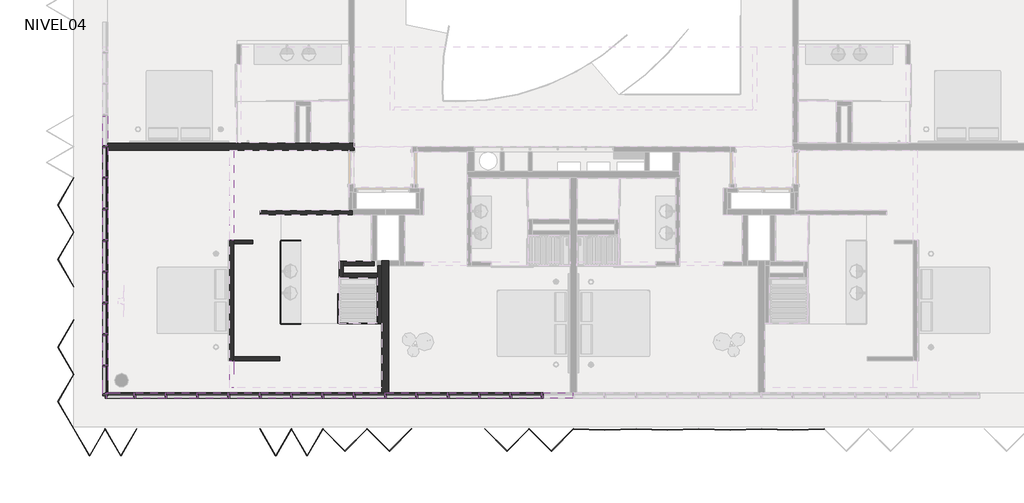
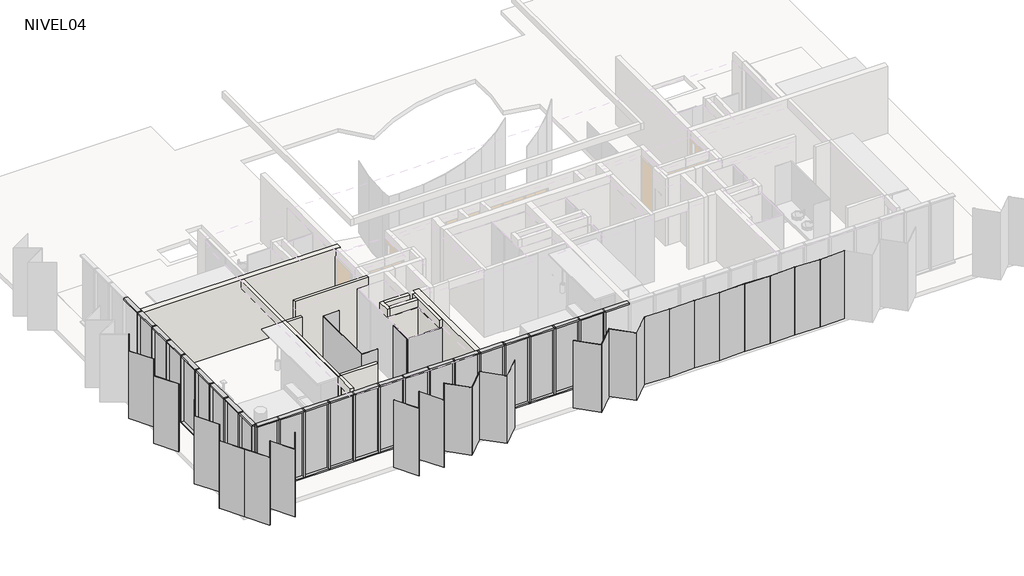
# One storey, part 1 of 8: 70 members, 31 plates, 15 walls.
"""IFC4 building model written with IfcOpenShell, lengths in millimetres."""

from ifc_helpers import new_model, si_unit, frame, origin, place, context, project, spatial, polyline, outline, extrude, faceted_brep, transform, mapped, element, save
from components import rectangular_mullion_50_x_150mm_324a6438, rectangular_mullion_50_x_150mm_d09437e2, rectangular_mullion_50_x_150mm_5dc04e1f, rectangular_mullion_50_x_150mm_33c2bde1, rectangular_mullion_50_x_150mm_da4cfd0d, folding_hd_abf8ebb9, folding_hd_folding_hd_45_d1567fec, folding_hd_folding_hd_60_f2b0c3be, plate_e70df11b, panel_corredera_cr_panel_corredera_0e7ff004, system_panel_cr_shower_eca2249b, system_panel_cr_shower_cd40b9b4, system_panel_cr_shower_8ff19449, system_panel_cr_shower_4114597a, system_panel_glazed_8b1c2311, system_panel_glazed_b40d16d2, system_panel_glazed_24c908d7, system_panel_glazed_6ccc6dc1

model = new_model("IFC4")

# Units and contexts
model_context = context("Model", 3, world=origin())
ifc_project = project(units=[si_unit("LENGTHUNIT", "METRE", prefix="MILLI")], contexts=[model_context])

# Site, building, storey
site = spatial("IfcSite", under=ifc_project)
building = spatial("IfcBuilding", under=site)
storey = spatial("IfcBuildingStorey", under=building, Name="NIVEL04", Elevation=7940.0)

# Members
placement = place(None, origin())
rectangular_mullion_50_x_150mm_shape = rectangular_mullion_50_x_150mm_324a6438(model_context)
element("IfcMember", 1, ObjectType="Rectangular Mullion : 50 x 150mm", at=placement, inside=storey, context=model_context, shape_type="MappedRepresentation", body=[
    mapped(rectangular_mullion_50_x_150mm_shape, transform((-20633.5934748, -241.0860763, 10490.0), x_axis=(0.0, 0.0, 1.0), y_axis=(-1.0, 0.0, 0.0), z_axis=(0.0, -1.0, 0.0))),
])
element("IfcMember", 2, ObjectType="Rectangular Mullion : 50 x 150mm", at=placement, inside=storey, context=model_context, shape_type="MappedRepresentation", body=[
    mapped(rectangular_mullion_50_x_150mm_shape, transform((-20633.5934748, -1141.0860763, 10490.0), x_axis=(0.0, 0.0, 1.0), y_axis=(-1.0, 0.0, 0.0), z_axis=(0.0, -1.0, 0.0))),
])
element("IfcMember", 3, ObjectType="Rectangular Mullion : 50 x 150mm", at=placement, inside=storey, context=model_context, shape_type="MappedRepresentation", body=[
    mapped(rectangular_mullion_50_x_150mm_shape, transform((-20633.5934748, -2041.0860763, 10490.0), x_axis=(0.0, 0.0, 1.0), y_axis=(-1.0, 0.0, 0.0), z_axis=(0.0, -1.0, 0.0))),
])
element("IfcMember", 4, ObjectType="Rectangular Mullion : 50 x 150mm", at=placement, inside=storey, context=model_context, shape_type="MappedRepresentation", body=[
    mapped(rectangular_mullion_50_x_150mm_shape, transform((-20633.5934748, -2941.0860763, 10490.0), x_axis=(0.0, 0.0, 1.0), y_axis=(-1.0, 0.0, 0.0), z_axis=(0.0, -1.0, 0.0))),
])
element("IfcMember", 5, ObjectType="Rectangular Mullion : 50 x 150mm", at=placement, inside=storey, context=model_context, shape_type="MappedRepresentation", body=[
    mapped(rectangular_mullion_50_x_150mm_shape, transform((-20633.5934748, -3841.0860763, 10490.0), x_axis=(0.0, 0.0, 1.0), y_axis=(-1.0, 0.0, 0.0), z_axis=(0.0, -1.0, 0.0))),
])
element("IfcMember", 6, ObjectType="Rectangular Mullion : 50 x 150mm", at=placement, inside=storey, context=model_context, shape_type="MappedRepresentation", body=[
    mapped(rectangular_mullion_50_x_150mm_shape, transform((-20633.5934748, -4741.0860763, 10490.0), x_axis=(0.0, 0.0, 1.0), y_axis=(-1.0, 0.0, 0.0), z_axis=(0.0, -1.0, 0.0))),
])
element("IfcMember", 7, ObjectType="Rectangular Mullion : 50 x 150mm", at=placement, inside=storey, context=model_context, shape_type="MappedRepresentation", body=[
    mapped(rectangular_mullion_50_x_150mm_shape, transform((-20633.5934748, -5641.0860763, 10490.0), x_axis=(0.0, 0.0, 1.0), y_axis=(-1.0, 0.0, 0.0), z_axis=(0.0, -1.0, 0.0))),
])
element("IfcMember", 8, ObjectType="Rectangular Mullion : 50 x 150mm", at=placement, inside=storey, context=model_context, shape_type="MappedRepresentation", body=[
    mapped(rectangular_mullion_50_x_150mm_shape, transform((-20633.5934748, -6541.0860763, 10490.0), x_axis=(0.0, 0.0, 1.0), y_axis=(-1.0, 0.0, 0.0), z_axis=(0.0, -1.0, 0.0))),
])
element("IfcMember", 9, ObjectType="Rectangular Mullion : 50 x 150mm", at=placement, inside=storey, context=model_context, shape_type="MappedRepresentation", body=[
    mapped(rectangular_mullion_50_x_150mm_shape, transform((-20633.5934748, -291.0860763, 7920.0), x_axis=(0.0, 0.0, -1.0), y_axis=(-1.0, 0.0, 0.0), z_axis=(0.0, 1.0, 0.0))),
])
element("IfcMember", 10, ObjectType="Rectangular Mullion : 50 x 150mm", at=placement, inside=storey, context=model_context, shape_type="MappedRepresentation", body=[
    mapped(rectangular_mullion_50_x_150mm_shape, transform((-20633.5934748, -1191.0860763, 7920.0), x_axis=(0.0, 0.0, -1.0), y_axis=(-1.0, 0.0, 0.0), z_axis=(0.0, 1.0, 0.0))),
])
element("IfcMember", 11, ObjectType="Rectangular Mullion : 50 x 150mm", at=placement, inside=storey, context=model_context, shape_type="MappedRepresentation", body=[
    mapped(rectangular_mullion_50_x_150mm_shape, transform((-20633.5934748, -2091.0860763, 7920.0), x_axis=(0.0, 0.0, -1.0), y_axis=(-1.0, 0.0, 0.0), z_axis=(0.0, 1.0, 0.0))),
])
element("IfcMember", 12, ObjectType="Rectangular Mullion : 50 x 150mm", at=placement, inside=storey, context=model_context, shape_type="MappedRepresentation", body=[
    mapped(rectangular_mullion_50_x_150mm_shape, transform((-20633.5934748, -2991.0860763, 7920.0), x_axis=(0.0, 0.0, -1.0), y_axis=(-1.0, 0.0, 0.0), z_axis=(0.0, 1.0, 0.0))),
])
element("IfcMember", 13, ObjectType="Rectangular Mullion : 50 x 150mm", at=placement, inside=storey, context=model_context, shape_type="MappedRepresentation", body=[
    mapped(rectangular_mullion_50_x_150mm_shape, transform((-20633.5934748, -3891.0860763, 7920.0), x_axis=(0.0, 0.0, -1.0), y_axis=(-1.0, 0.0, 0.0), z_axis=(0.0, 1.0, 0.0))),
])
element("IfcMember", 14, ObjectType="Rectangular Mullion : 50 x 150mm", at=placement, inside=storey, context=model_context, shape_type="MappedRepresentation", body=[
    mapped(rectangular_mullion_50_x_150mm_shape, transform((-20633.5934748, -4791.0860763, 7920.0), x_axis=(0.0, 0.0, -1.0), y_axis=(-1.0, 0.0, 0.0), z_axis=(0.0, 1.0, 0.0))),
])
element("IfcMember", 15, ObjectType="Rectangular Mullion : 50 x 150mm", at=placement, inside=storey, context=model_context, shape_type="MappedRepresentation", body=[
    mapped(rectangular_mullion_50_x_150mm_shape, transform((-20633.5934748, -5691.0860763, 7920.0), x_axis=(0.0, 0.0, -1.0), y_axis=(-1.0, 0.0, 0.0), z_axis=(0.0, 1.0, 0.0))),
])
element("IfcMember", 16, ObjectType="Rectangular Mullion : 50 x 150mm", at=placement, inside=storey, context=model_context, shape_type="MappedRepresentation", body=[
    mapped(rectangular_mullion_50_x_150mm_shape, transform((-8058.5934748, -7416.0860759, 10490.0), x_axis=(0.0, 0.0, 1.0), y_axis=(0.0, 1.0, 0.0), z_axis=(-1.0, 0.0, 0.0))),
])
element("IfcMember", 17, ObjectType="Rectangular Mullion : 50 x 150mm", at=placement, inside=storey, context=model_context, shape_type="MappedRepresentation", body=[
    mapped(rectangular_mullion_50_x_150mm_shape, transform((-8958.5934748, -7416.0860759, 10490.0), x_axis=(0.0, 0.0, 1.0), y_axis=(0.0, 1.0, 0.0), z_axis=(-1.0, 0.0, 0.0))),
])
element("IfcMember", 18, ObjectType="Rectangular Mullion : 50 x 150mm", at=placement, inside=storey, context=model_context, shape_type="MappedRepresentation", body=[
    mapped(rectangular_mullion_50_x_150mm_shape, transform((-9858.5934748, -7416.0860759, 10490.0), x_axis=(0.0, 0.0, 1.0), y_axis=(0.0, 1.0, 0.0), z_axis=(-1.0, 0.0, 0.0))),
])
element("IfcMember", 19, ObjectType="Rectangular Mullion : 50 x 150mm", at=placement, inside=storey, context=model_context, shape_type="MappedRepresentation", body=[
    mapped(rectangular_mullion_50_x_150mm_shape, transform((-10758.5934748, -7416.0860759, 10490.0), x_axis=(0.0, 0.0, 1.0), y_axis=(0.0, 1.0, 0.0), z_axis=(-1.0, 0.0, 0.0))),
])
element("IfcMember", 20, ObjectType="Rectangular Mullion : 50 x 150mm", at=placement, inside=storey, context=model_context, shape_type="MappedRepresentation", body=[
    mapped(rectangular_mullion_50_x_150mm_shape, transform((-11658.5934748, -7416.0860759, 10490.0), x_axis=(0.0, 0.0, 1.0), y_axis=(0.0, 1.0, 0.0), z_axis=(-1.0, 0.0, 0.0))),
])
element("IfcMember", 21, ObjectType="Rectangular Mullion : 50 x 150mm", at=placement, inside=storey, context=model_context, shape_type="MappedRepresentation", body=[
    mapped(rectangular_mullion_50_x_150mm_shape, transform((-12558.5934748, -7416.0860759, 10490.0), x_axis=(0.0, 0.0, 1.0), y_axis=(0.0, 1.0, 0.0), z_axis=(-1.0, 0.0, 0.0))),
])
element("IfcMember", 22, ObjectType="Rectangular Mullion : 50 x 150mm", at=placement, inside=storey, context=model_context, shape_type="MappedRepresentation", body=[
    mapped(rectangular_mullion_50_x_150mm_shape, transform((-13458.5934748, -7416.0860759, 10490.0), x_axis=(0.0, 0.0, 1.0), y_axis=(0.0, 1.0, 0.0), z_axis=(-1.0, 0.0, 0.0))),
])
element("IfcMember", 23, ObjectType="Rectangular Mullion : 50 x 150mm", at=placement, inside=storey, context=model_context, shape_type="MappedRepresentation", body=[
    mapped(rectangular_mullion_50_x_150mm_shape, transform((-14358.5934748, -7416.0860759, 10490.0), x_axis=(0.0, 0.0, 1.0), y_axis=(0.0, 1.0, 0.0), z_axis=(-1.0, 0.0, 0.0))),
])
element("IfcMember", 24, ObjectType="Rectangular Mullion : 50 x 150mm", at=placement, inside=storey, context=model_context, shape_type="MappedRepresentation", body=[
    mapped(rectangular_mullion_50_x_150mm_shape, transform((-15258.5934748, -7416.0860759, 10490.0), x_axis=(0.0, 0.0, 1.0), y_axis=(0.0, 1.0, 0.0), z_axis=(-1.0, 0.0, 0.0))),
])
element("IfcMember", 25, ObjectType="Rectangular Mullion : 50 x 150mm", at=placement, inside=storey, context=model_context, shape_type="MappedRepresentation", body=[
    mapped(rectangular_mullion_50_x_150mm_shape, transform((-16158.5934748, -7416.0860759, 10490.0), x_axis=(0.0, 0.0, 1.0), y_axis=(0.0, 1.0, 0.0), z_axis=(-1.0, 0.0, 0.0))),
])
element("IfcMember", 26, ObjectType="Rectangular Mullion : 50 x 150mm", at=placement, inside=storey, context=model_context, shape_type="MappedRepresentation", body=[
    mapped(rectangular_mullion_50_x_150mm_shape, transform((-17058.5934748, -7416.0860759, 10490.0), x_axis=(0.0, 0.0, 1.0), y_axis=(0.0, 1.0, 0.0), z_axis=(-1.0, 0.0, 0.0))),
])
element("IfcMember", 27, ObjectType="Rectangular Mullion : 50 x 150mm", at=placement, inside=storey, context=model_context, shape_type="MappedRepresentation", body=[
    mapped(rectangular_mullion_50_x_150mm_shape, transform((-17958.5934748, -7416.0860759, 10490.0), x_axis=(0.0, 0.0, 1.0), y_axis=(0.0, 1.0, 0.0), z_axis=(-1.0, 0.0, 0.0))),
])
element("IfcMember", 28, ObjectType="Rectangular Mullion : 50 x 150mm", at=placement, inside=storey, context=model_context, shape_type="MappedRepresentation", body=[
    mapped(rectangular_mullion_50_x_150mm_shape, transform((-18858.5934748, -7416.0860759, 10490.0), x_axis=(0.0, 0.0, 1.0), y_axis=(0.0, 1.0, 0.0), z_axis=(-1.0, 0.0, 0.0))),
])
element("IfcMember", 29, ObjectType="Rectangular Mullion : 50 x 150mm", at=placement, inside=storey, context=model_context, shape_type="MappedRepresentation", body=[
    mapped(rectangular_mullion_50_x_150mm_shape, transform((-19758.5934748, -7416.0860759, 10490.0), x_axis=(0.0, 0.0, 1.0), y_axis=(0.0, 1.0, 0.0), z_axis=(-1.0, 0.0, 0.0))),
])
element("IfcMember", 30, ObjectType="Rectangular Mullion : 50 x 150mm", at=placement, inside=storey, context=model_context, shape_type="MappedRepresentation", body=[
    mapped(rectangular_mullion_50_x_150mm_shape, transform((-8108.5934748, -7416.0860759, 7920.0), x_axis=(0.0, 0.0, -1.0), y_axis=(0.0, 1.0, 0.0), z_axis=(1.0, 0.0, 0.0))),
])
element("IfcMember", 31, ObjectType="Rectangular Mullion : 50 x 150mm", at=placement, inside=storey, context=model_context, shape_type="MappedRepresentation", body=[
    mapped(rectangular_mullion_50_x_150mm_shape, transform((-9008.5934748, -7416.0860759, 7920.0), x_axis=(0.0, 0.0, -1.0), y_axis=(0.0, 1.0, 0.0), z_axis=(1.0, 0.0, 0.0))),
])
element("IfcMember", 32, ObjectType="Rectangular Mullion : 50 x 150mm", at=placement, inside=storey, context=model_context, shape_type="MappedRepresentation", body=[
    mapped(rectangular_mullion_50_x_150mm_shape, transform((-9908.5934748, -7416.0860759, 7920.0), x_axis=(0.0, 0.0, -1.0), y_axis=(0.0, 1.0, 0.0), z_axis=(1.0, 0.0, 0.0))),
])
element("IfcMember", 33, ObjectType="Rectangular Mullion : 50 x 150mm", at=placement, inside=storey, context=model_context, shape_type="MappedRepresentation", body=[
    mapped(rectangular_mullion_50_x_150mm_shape, transform((-10808.5934748, -7416.0860759, 7920.0), x_axis=(0.0, 0.0, -1.0), y_axis=(0.0, 1.0, 0.0), z_axis=(1.0, 0.0, 0.0))),
])
element("IfcMember", 34, ObjectType="Rectangular Mullion : 50 x 150mm", at=placement, inside=storey, context=model_context, shape_type="MappedRepresentation", body=[
    mapped(rectangular_mullion_50_x_150mm_shape, transform((-11708.5934748, -7416.0860759, 7920.0), x_axis=(0.0, 0.0, -1.0), y_axis=(0.0, 1.0, 0.0), z_axis=(1.0, 0.0, 0.0))),
])
element("IfcMember", 35, ObjectType="Rectangular Mullion : 50 x 150mm", at=placement, inside=storey, context=model_context, shape_type="MappedRepresentation", body=[
    mapped(rectangular_mullion_50_x_150mm_shape, transform((-12608.5934748, -7416.0860759, 7920.0), x_axis=(0.0, 0.0, -1.0), y_axis=(0.0, 1.0, 0.0), z_axis=(1.0, 0.0, 0.0))),
])
element("IfcMember", 36, ObjectType="Rectangular Mullion : 50 x 150mm", at=placement, inside=storey, context=model_context, shape_type="MappedRepresentation", body=[
    mapped(rectangular_mullion_50_x_150mm_shape, transform((-13508.5934748, -7416.0860759, 7920.0), x_axis=(0.0, 0.0, -1.0), y_axis=(0.0, 1.0, 0.0), z_axis=(1.0, 0.0, 0.0))),
])
element("IfcMember", 37, ObjectType="Rectangular Mullion : 50 x 150mm", at=placement, inside=storey, context=model_context, shape_type="MappedRepresentation", body=[
    mapped(rectangular_mullion_50_x_150mm_shape, transform((-14408.5934748, -7416.0860759, 7920.0), x_axis=(0.0, 0.0, -1.0), y_axis=(0.0, 1.0, 0.0), z_axis=(1.0, 0.0, 0.0))),
])
element("IfcMember", 38, ObjectType="Rectangular Mullion : 50 x 150mm", at=placement, inside=storey, context=model_context, shape_type="MappedRepresentation", body=[
    mapped(rectangular_mullion_50_x_150mm_shape, transform((-15308.5934748, -7416.0860759, 7920.0), x_axis=(0.0, 0.0, -1.0), y_axis=(0.0, 1.0, 0.0), z_axis=(1.0, 0.0, 0.0))),
])
element("IfcMember", 39, ObjectType="Rectangular Mullion : 50 x 150mm", at=placement, inside=storey, context=model_context, shape_type="MappedRepresentation", body=[
    mapped(rectangular_mullion_50_x_150mm_shape, transform((-16208.5934748, -7416.0860759, 7920.0), x_axis=(0.0, 0.0, -1.0), y_axis=(0.0, 1.0, 0.0), z_axis=(1.0, 0.0, 0.0))),
])
element("IfcMember", 40, ObjectType="Rectangular Mullion : 50 x 150mm", at=placement, inside=storey, context=model_context, shape_type="MappedRepresentation", body=[
    mapped(rectangular_mullion_50_x_150mm_shape, transform((-17108.5934748, -7416.0860759, 7920.0), x_axis=(0.0, 0.0, -1.0), y_axis=(0.0, 1.0, 0.0), z_axis=(1.0, 0.0, 0.0))),
])
element("IfcMember", 41, ObjectType="Rectangular Mullion : 50 x 150mm", at=placement, inside=storey, context=model_context, shape_type="MappedRepresentation", body=[
    mapped(rectangular_mullion_50_x_150mm_shape, transform((-18008.5934748, -7416.0860759, 7920.0), x_axis=(0.0, 0.0, -1.0), y_axis=(0.0, 1.0, 0.0), z_axis=(1.0, 0.0, 0.0))),
])
element("IfcMember", 42, ObjectType="Rectangular Mullion : 50 x 150mm", at=placement, inside=storey, context=model_context, shape_type="MappedRepresentation", body=[
    mapped(rectangular_mullion_50_x_150mm_shape, transform((-18908.5934748, -7416.0860759, 7920.0), x_axis=(0.0, 0.0, -1.0), y_axis=(0.0, 1.0, 0.0), z_axis=(1.0, 0.0, 0.0))),
])
rectangular_mullion_50_x_150mm_2_shape = rectangular_mullion_50_x_150mm_d09437e2(model_context)
element("IfcMember", 43, ObjectType="Rectangular Mullion : 50 x 150mm", at=placement, inside=storey, context=model_context, shape_type="MappedRepresentation", body=[
    mapped(rectangular_mullion_50_x_150mm_2_shape, transform((-20633.5934748, -7366.0860759, 10490.0), x_axis=(0.0, 0.0, 1.0), y_axis=(-1.0, 0.0, 0.0), z_axis=(0.0, -1.0, 0.0))),
])
element("IfcMember", 44, ObjectType="Rectangular Mullion : 50 x 150mm", at=placement, inside=storey, context=model_context, shape_type="MappedRepresentation", body=[
    mapped(rectangular_mullion_50_x_150mm_2_shape, transform((-20633.5934748, -6591.0860763, 7920.0), x_axis=(0.0, 0.0, -1.0), y_axis=(-1.0, 0.0, 0.0), z_axis=(0.0, 1.0, 0.0))),
])
rectangular_mullion_50_x_150mm_3_shape = rectangular_mullion_50_x_150mm_5dc04e1f(model_context)
element("IfcMember", 45, ObjectType="Rectangular Mullion : 50 x 150mm", at=placement, inside=storey, context=model_context, shape_type="MappedRepresentation", body=[
    mapped(rectangular_mullion_50_x_150mm_3_shape, transform((-20583.5934748, -7416.0860759, 10490.0), x_axis=(0.0, 0.0, 1.0), y_axis=(0.0, 1.0, 0.0), z_axis=(-1.0, 0.0, 0.0))),
])
element("IfcMember", 46, ObjectType="Rectangular Mullion : 50 x 150mm", at=placement, inside=storey, context=model_context, shape_type="MappedRepresentation", body=[
    mapped(rectangular_mullion_50_x_150mm_3_shape, transform((-19808.5934748, -7416.0860759, 7920.0), x_axis=(0.0, 0.0, -1.0), y_axis=(0.0, 1.0, 0.0), z_axis=(1.0, 0.0, 0.0))),
])
rectangular_mullion_50_x_150mm_4_shape = rectangular_mullion_50_x_150mm_33c2bde1(model_context)
element("IfcMember", 47, ObjectType="Rectangular Mullion : 50 x 150mm", at=placement, inside=storey, context=model_context, shape_type="MappedRepresentation", body=[
    mapped(rectangular_mullion_50_x_150mm_4_shape, transform((-20633.5934748, -266.0860763, 7920.0), x_axis=(0.0, -1.0, 0.0), y_axis=(-1.0, 0.0, 0.0), z_axis=(0.0, 0.0, -1.0))),
])
element("IfcMember", 48, ObjectType="Rectangular Mullion : 50 x 150mm", at=placement, inside=storey, context=model_context, shape_type="MappedRepresentation", body=[
    mapped(rectangular_mullion_50_x_150mm_4_shape, transform((-20633.5934748, -1166.0860763, 7920.0), x_axis=(0.0, -1.0, 0.0), y_axis=(-1.0, 0.0, 0.0), z_axis=(0.0, 0.0, -1.0))),
])
element("IfcMember", 49, ObjectType="Rectangular Mullion : 50 x 150mm", at=placement, inside=storey, context=model_context, shape_type="MappedRepresentation", body=[
    mapped(rectangular_mullion_50_x_150mm_4_shape, transform((-20633.5934748, -2066.0860763, 7920.0), x_axis=(0.0, -1.0, 0.0), y_axis=(-1.0, 0.0, 0.0), z_axis=(0.0, 0.0, -1.0))),
])
element("IfcMember", 50, ObjectType="Rectangular Mullion : 50 x 150mm", at=placement, inside=storey, context=model_context, shape_type="MappedRepresentation", body=[
    mapped(rectangular_mullion_50_x_150mm_4_shape, transform((-20633.5934748, -2966.0860763, 7920.0), x_axis=(0.0, -1.0, 0.0), y_axis=(-1.0, 0.0, 0.0), z_axis=(0.0, 0.0, -1.0))),
])
element("IfcMember", 51, ObjectType="Rectangular Mullion : 50 x 150mm", at=placement, inside=storey, context=model_context, shape_type="MappedRepresentation", body=[
    mapped(rectangular_mullion_50_x_150mm_4_shape, transform((-20633.5934748, -3866.0860763, 7920.0), x_axis=(0.0, -1.0, 0.0), y_axis=(-1.0, 0.0, 0.0), z_axis=(0.0, 0.0, -1.0))),
])
element("IfcMember", 52, ObjectType="Rectangular Mullion : 50 x 150mm", at=placement, inside=storey, context=model_context, shape_type="MappedRepresentation", body=[
    mapped(rectangular_mullion_50_x_150mm_4_shape, transform((-20633.5934748, -4766.0860763, 7920.0), x_axis=(0.0, -1.0, 0.0), y_axis=(-1.0, 0.0, 0.0), z_axis=(0.0, 0.0, -1.0))),
])
element("IfcMember", 53, ObjectType="Rectangular Mullion : 50 x 150mm", at=placement, inside=storey, context=model_context, shape_type="MappedRepresentation", body=[
    mapped(rectangular_mullion_50_x_150mm_4_shape, transform((-20633.5934748, -5666.0860763, 7920.0), x_axis=(0.0, -1.0, 0.0), y_axis=(-1.0, 0.0, 0.0), z_axis=(0.0, 0.0, -1.0))),
])
element("IfcMember", 54, ObjectType="Rectangular Mullion : 50 x 150mm", at=placement, inside=storey, context=model_context, shape_type="MappedRepresentation", body=[
    mapped(rectangular_mullion_50_x_150mm_4_shape, transform((-20633.5934748, -6566.0860763, 7920.0), x_axis=(0.0, -1.0, 0.0), y_axis=(-1.0, 0.0, 0.0), z_axis=(0.0, 0.0, -1.0))),
])
rectangular_mullion_50_x_150mm_5_shape = rectangular_mullion_50_x_150mm_da4cfd0d(model_context)
element("IfcMember", 55, ObjectType="Rectangular Mullion : 50 x 150mm", at=placement, inside=storey, context=model_context, shape_type="MappedRepresentation", body=[
    mapped(rectangular_mullion_50_x_150mm_5_shape, transform((-20633.5934748, -7416.0860759, 7920.0), x_axis=(0.0, -1.0, 0.0), y_axis=(-1.0, 0.0, 0.0), z_axis=(0.0, 0.0, -1.0))),
])
element("IfcMember", 56, ObjectType="Rectangular Mullion : 50 x 150mm", at=placement, inside=storey, context=model_context, shape_type="MappedRepresentation", body=[
    mapped(rectangular_mullion_50_x_150mm_4_shape, transform((-8083.5934748, -7416.0860759, 7920.0), x_axis=(-1.0, 0.0, 0.0), y_axis=(0.0, 1.0, 0.0), z_axis=(0.0, 0.0, -1.0))),
])
element("IfcMember", 57, ObjectType="Rectangular Mullion : 50 x 150mm", at=placement, inside=storey, context=model_context, shape_type="MappedRepresentation", body=[
    mapped(rectangular_mullion_50_x_150mm_4_shape, transform((-8983.5934748, -7416.0860759, 7920.0), x_axis=(-1.0, 0.0, 0.0), y_axis=(0.0, 1.0, 0.0), z_axis=(0.0, 0.0, -1.0))),
])
element("IfcMember", 58, ObjectType="Rectangular Mullion : 50 x 150mm", at=placement, inside=storey, context=model_context, shape_type="MappedRepresentation", body=[
    mapped(rectangular_mullion_50_x_150mm_4_shape, transform((-9883.5934748, -7416.0860759, 7920.0), x_axis=(-1.0, 0.0, 0.0), y_axis=(0.0, 1.0, 0.0), z_axis=(0.0, 0.0, -1.0))),
])
element("IfcMember", 59, ObjectType="Rectangular Mullion : 50 x 150mm", at=placement, inside=storey, context=model_context, shape_type="MappedRepresentation", body=[
    mapped(rectangular_mullion_50_x_150mm_4_shape, transform((-10783.5934748, -7416.0860759, 7920.0), x_axis=(-1.0, 0.0, 0.0), y_axis=(0.0, 1.0, 0.0), z_axis=(0.0, 0.0, -1.0))),
])
element("IfcMember", 60, ObjectType="Rectangular Mullion : 50 x 150mm", at=placement, inside=storey, context=model_context, shape_type="MappedRepresentation", body=[
    mapped(rectangular_mullion_50_x_150mm_4_shape, transform((-11683.5934748, -7416.0860759, 7920.0), x_axis=(-1.0, 0.0, 0.0), y_axis=(0.0, 1.0, 0.0), z_axis=(0.0, 0.0, -1.0))),
])
element("IfcMember", 61, ObjectType="Rectangular Mullion : 50 x 150mm", at=placement, inside=storey, context=model_context, shape_type="MappedRepresentation", body=[
    mapped(rectangular_mullion_50_x_150mm_4_shape, transform((-12583.5934748, -7416.0860759, 7920.0), x_axis=(-1.0, 0.0, 0.0), y_axis=(0.0, 1.0, 0.0), z_axis=(0.0, 0.0, -1.0))),
])
element("IfcMember", 62, ObjectType="Rectangular Mullion : 50 x 150mm", at=placement, inside=storey, context=model_context, shape_type="MappedRepresentation", body=[
    mapped(rectangular_mullion_50_x_150mm_4_shape, transform((-13483.5934748, -7416.0860759, 7920.0), x_axis=(-1.0, 0.0, 0.0), y_axis=(0.0, 1.0, 0.0), z_axis=(0.0, 0.0, -1.0))),
])
element("IfcMember", 63, ObjectType="Rectangular Mullion : 50 x 150mm", at=placement, inside=storey, context=model_context, shape_type="MappedRepresentation", body=[
    mapped(rectangular_mullion_50_x_150mm_4_shape, transform((-14383.5934748, -7416.0860759, 7920.0), x_axis=(-1.0, 0.0, 0.0), y_axis=(0.0, 1.0, 0.0), z_axis=(0.0, 0.0, -1.0))),
])
element("IfcMember", 64, ObjectType="Rectangular Mullion : 50 x 150mm", at=placement, inside=storey, context=model_context, shape_type="MappedRepresentation", body=[
    mapped(rectangular_mullion_50_x_150mm_4_shape, transform((-15283.5934748, -7416.0860759, 7920.0), x_axis=(-1.0, 0.0, 0.0), y_axis=(0.0, 1.0, 0.0), z_axis=(0.0, 0.0, -1.0))),
])
element("IfcMember", 65, ObjectType="Rectangular Mullion : 50 x 150mm", at=placement, inside=storey, context=model_context, shape_type="MappedRepresentation", body=[
    mapped(rectangular_mullion_50_x_150mm_4_shape, transform((-16183.5934748, -7416.0860759, 7920.0), x_axis=(-1.0, 0.0, 0.0), y_axis=(0.0, 1.0, 0.0), z_axis=(0.0, 0.0, -1.0))),
])
element("IfcMember", 66, ObjectType="Rectangular Mullion : 50 x 150mm", at=placement, inside=storey, context=model_context, shape_type="MappedRepresentation", body=[
    mapped(rectangular_mullion_50_x_150mm_4_shape, transform((-17083.5934748, -7416.0860759, 7920.0), x_axis=(-1.0, 0.0, 0.0), y_axis=(0.0, 1.0, 0.0), z_axis=(0.0, 0.0, -1.0))),
])
element("IfcMember", 67, ObjectType="Rectangular Mullion : 50 x 150mm", at=placement, inside=storey, context=model_context, shape_type="MappedRepresentation", body=[
    mapped(rectangular_mullion_50_x_150mm_4_shape, transform((-17983.5934748, -7416.0860759, 7920.0), x_axis=(-1.0, 0.0, 0.0), y_axis=(0.0, 1.0, 0.0), z_axis=(0.0, 0.0, -1.0))),
])
element("IfcMember", 68, ObjectType="Rectangular Mullion : 50 x 150mm", at=placement, inside=storey, context=model_context, shape_type="MappedRepresentation", body=[
    mapped(rectangular_mullion_50_x_150mm_4_shape, transform((-18883.5934748, -7416.0860759, 7920.0), x_axis=(-1.0, 0.0, 0.0), y_axis=(0.0, 1.0, 0.0), z_axis=(0.0, 0.0, -1.0))),
])
element("IfcMember", 69, ObjectType="Rectangular Mullion : 50 x 150mm", at=placement, inside=storey, context=model_context, shape_type="MappedRepresentation", body=[
    mapped(rectangular_mullion_50_x_150mm_4_shape, transform((-19783.5934748, -7416.0860759, 7920.0), x_axis=(-1.0, 0.0, 0.0), y_axis=(0.0, 1.0, 0.0), z_axis=(0.0, 0.0, -1.0))),
])
element("IfcMember", 70, ObjectType="Rectangular Mullion : 50 x 150mm", at=placement, inside=storey, context=model_context, shape_type="MappedRepresentation", body=[
    mapped(rectangular_mullion_50_x_150mm_5_shape, transform((-20633.5934748, -7416.0860759, 7920.0), x_axis=(-1.0, 0.0, 0.0), y_axis=(0.0, 1.0, 0.0), z_axis=(0.0, 0.0, -1.0))),
])

# Plates
folding_hd_shape = folding_hd_abf8ebb9(model_context)
element("IfcPlate", 71, ObjectType="FOLDING HD : FOLDING HD-90-2°", at=placement, inside=storey, context=model_context, shape_type="MappedRepresentation", body=[
    mapped(folding_hd_shape, transform((-3583.5934748, -8366.0860759, 7920.0), x_axis=(-1.0, 0.0, 0.0), y_axis=(0.0, -1.0, 0.0), z_axis=(0.0, 0.0, 1.0))),
])
folding_hd_folding_hd_45_shape = folding_hd_folding_hd_45_d1567fec(model_context)
element("IfcPlate", 72, ObjectType="FOLDING HD : FOLDING HD 45", at=placement, inside=storey, context=model_context, shape_type="MappedRepresentation", body=[
    mapped(folding_hd_folding_hd_45_shape, transform((-10783.5934748, -8366.0860759, 7920.0), x_axis=(-1.0, 0.0, 0.0), y_axis=(0.0, -1.0, 0.0), z_axis=(0.0, 0.0, 1.0))),
])
folding_hd_folding_hd_60_shape = folding_hd_folding_hd_60_f2b0c3be(model_context)
element("IfcPlate", 73, ObjectType="FOLDING HD : FOLDING HD 60", at=placement, inside=storey, context=model_context, shape_type="MappedRepresentation", body=[
    mapped(folding_hd_folding_hd_60_shape, transform((-17958.5934748, -8366.0860759, 7920.0), x_axis=(-1.0, 0.0, 0.0), y_axis=(0.0, -1.0, 0.0), z_axis=(0.0, 0.0, 1.0))),
])
plate_shape = plate_e70df11b(model_context)
element("IfcPlate", 74, ObjectType="FOLDING HD : FOLDING HD-90_30\"", at=placement, inside=storey, context=model_context, shape_type="MappedRepresentation", body=[
    mapped(plate_shape, transform((-21533.5934748, -4766.0860759, 7920.0), x_axis=(0.0, -1.0, 0.0), y_axis=(1.0, 0.0, 0.0), z_axis=(0.0, 0.0, 1.0))),
])
panel_corredera_cr_panel_corredera_shape = panel_corredera_cr_panel_corredera_0e7ff004(model_context)
element("IfcPlate", 75, ObjectType="PANEL CORREDERA : CR_PANEL CORREDERA", at=placement, inside=storey, context=model_context, shape_type="MappedRepresentation", body=[
    mapped(panel_corredera_cr_panel_corredera_shape, transform((-13913.6434748, -4991.5697221, 7940.0), x_axis=(0.0, 1.0, 0.0), y_axis=(-1.0, 0.0, 0.0), z_axis=(0.0, 0.0, 1.0))),
])
system_panel_cr_shower_shape = system_panel_cr_shower_eca2249b(model_context)
element("IfcPlate", 76, ObjectType="System Panel : CR-SHOWER", at=placement, inside=storey, context=model_context, shape_type="MappedRepresentation", body=[
    mapped(system_panel_cr_shower_shape, transform((-13298.6184748, -5336.1362189, 7940.0), x_axis=(-1.0, 0.0, 0.0), y_axis=(0.0, -1.0, 0.0), z_axis=(0.0, 0.0, 1.0))),
])
system_panel_cr_shower_2_shape = system_panel_cr_shower_cd40b9b4(model_context)
element("IfcPlate", 77, ObjectType="System Panel : CR-SHOWER", at=placement, inside=storey, context=model_context, shape_type="MappedRepresentation", body=[
    mapped(system_panel_cr_shower_2_shape, transform((-15593.5934748, -4164.8462541, 7940.0), x_axis=(0.0, 1.0, 0.0), y_axis=(-1.0, 0.0, 0.0), z_axis=(0.0, 0.0, 1.0))),
])
system_panel_cr_shower_3_shape = system_panel_cr_shower_8ff19449(model_context)
element("IfcPlate", 78, ObjectType="System Panel : CR-SHOWER", at=placement, inside=storey, context=model_context, shape_type="MappedRepresentation", body=[
    mapped(system_panel_cr_shower_3_shape, transform((-15303.5934748, -5348.5862189, 7940.0), x_axis=(-1.0, 0.0, 0.0), y_axis=(0.0, -1.0, 0.0), z_axis=(0.0, 0.0, 1.0))),
])
system_panel_cr_shower_4_shape = system_panel_cr_shower_4114597a(model_context)
element("IfcPlate", 79, ObjectType="System Panel : CR-SHOWER", at=placement, inside=storey, context=model_context, shape_type="MappedRepresentation", body=[
    mapped(system_panel_cr_shower_4_shape, transform((-15303.5934748, -2966.0860763, 7940.0), x_axis=(-1.0, 0.0, 0.0), y_axis=(0.0, -1.0, 0.0), z_axis=(0.0, 0.0, 1.0))),
])
system_panel_glazed_shape = system_panel_glazed_8b1c2311(model_context)
element("IfcPlate", 80, ObjectType="System Panel : Glazed", at=placement, inside=storey, context=model_context, shape_type="MappedRepresentation", body=[
    mapped(system_panel_glazed_shape, transform((-20633.5934748, -716.0860763, 7970.0), x_axis=(0.0, -1.0, 0.0), y_axis=(1.0, 0.0, 0.0), z_axis=(0.0, 0.0, 1.0))),
])
element("IfcPlate", 81, ObjectType="System Panel : Glazed", at=placement, inside=storey, context=model_context, shape_type="MappedRepresentation", body=[
    mapped(system_panel_glazed_shape, transform((-20633.5934748, -1616.0860763, 7970.0), x_axis=(0.0, -1.0, 0.0), y_axis=(1.0, 0.0, 0.0), z_axis=(0.0, 0.0, 1.0))),
])
element("IfcPlate", 82, ObjectType="System Panel : Glazed", at=placement, inside=storey, context=model_context, shape_type="MappedRepresentation", body=[
    mapped(system_panel_glazed_shape, transform((-20633.5934748, -2516.0860763, 7970.0), x_axis=(0.0, -1.0, 0.0), y_axis=(1.0, 0.0, 0.0), z_axis=(0.0, 0.0, 1.0))),
])
element("IfcPlate", 83, ObjectType="System Panel : Glazed", at=placement, inside=storey, context=model_context, shape_type="MappedRepresentation", body=[
    mapped(system_panel_glazed_shape, transform((-20633.5934748, -3416.0860763, 7970.0), x_axis=(0.0, -1.0, 0.0), y_axis=(1.0, 0.0, 0.0), z_axis=(0.0, 0.0, 1.0))),
])
element("IfcPlate", 84, ObjectType="System Panel : Glazed", at=placement, inside=storey, context=model_context, shape_type="MappedRepresentation", body=[
    mapped(system_panel_glazed_shape, transform((-20633.5934748, -4316.0860763, 7970.0), x_axis=(0.0, -1.0, 0.0), y_axis=(1.0, 0.0, 0.0), z_axis=(0.0, 0.0, 1.0))),
])
element("IfcPlate", 85, ObjectType="System Panel : Glazed", at=placement, inside=storey, context=model_context, shape_type="MappedRepresentation", body=[
    mapped(system_panel_glazed_shape, transform((-20633.5934748, -5216.0860763, 7970.0), x_axis=(0.0, -1.0, 0.0), y_axis=(1.0, 0.0, 0.0), z_axis=(0.0, 0.0, 1.0))),
])
element("IfcPlate", 86, ObjectType="System Panel : Glazed", at=placement, inside=storey, context=model_context, shape_type="MappedRepresentation", body=[
    mapped(system_panel_glazed_shape, transform((-20633.5934748, -6116.0860763, 7970.0), x_axis=(0.0, -1.0, 0.0), y_axis=(1.0, 0.0, 0.0), z_axis=(0.0, 0.0, 1.0))),
])
system_panel_glazed_2_shape = system_panel_glazed_b40d16d2(model_context)
element("IfcPlate", 87, ObjectType="System Panel : Glazed", at=placement, inside=storey, context=model_context, shape_type="MappedRepresentation", body=[
    mapped(system_panel_glazed_2_shape, transform((-20633.5934748, -6978.5860761, 7970.0), x_axis=(0.0, -1.0, 0.0), y_axis=(1.0, 0.0, 0.0), z_axis=(0.0, 0.0, 1.0))),
])
system_panel_glazed_3_shape = system_panel_glazed_24c908d7(model_context)
element("IfcPlate", 88, ObjectType="System Panel : Glazed", at=placement, inside=storey, context=model_context, shape_type="MappedRepresentation", body=[
    mapped(system_panel_glazed_3_shape, transform((-20196.0934748, -7416.0860759, 7970.0), x_axis=(-1.0, 0.0, 0.0), y_axis=(0.0, -1.0, 0.0), z_axis=(0.0, 0.0, 1.0))),
])
system_panel_glazed_4_shape = system_panel_glazed_6ccc6dc1(model_context)
element("IfcPlate", 89, ObjectType="System Panel : Glazed", at=placement, inside=storey, context=model_context, shape_type="MappedRepresentation", body=[
    mapped(system_panel_glazed_4_shape, transform((-8533.5934748, -7416.0860759, 7970.0), x_axis=(-1.0, 0.0, 0.0), y_axis=(0.0, -1.0, 0.0), z_axis=(0.0, 0.0, 1.0))),
])
element("IfcPlate", 90, ObjectType="System Panel : Glazed", at=placement, inside=storey, context=model_context, shape_type="MappedRepresentation", body=[
    mapped(system_panel_glazed_4_shape, transform((-9433.5934748, -7416.0860759, 7970.0), x_axis=(-1.0, 0.0, 0.0), y_axis=(0.0, -1.0, 0.0), z_axis=(0.0, 0.0, 1.0))),
])
element("IfcPlate", 91, ObjectType="System Panel : Glazed", at=placement, inside=storey, context=model_context, shape_type="MappedRepresentation", body=[
    mapped(system_panel_glazed_4_shape, transform((-10333.5934748, -7416.0860759, 7970.0), x_axis=(-1.0, 0.0, 0.0), y_axis=(0.0, -1.0, 0.0), z_axis=(0.0, 0.0, 1.0))),
])
element("IfcPlate", 92, ObjectType="System Panel : Glazed", at=placement, inside=storey, context=model_context, shape_type="MappedRepresentation", body=[
    mapped(system_panel_glazed_4_shape, transform((-11233.5934748, -7416.0860759, 7970.0), x_axis=(-1.0, 0.0, 0.0), y_axis=(0.0, -1.0, 0.0), z_axis=(0.0, 0.0, 1.0))),
])
element("IfcPlate", 93, ObjectType="System Panel : Glazed", at=placement, inside=storey, context=model_context, shape_type="MappedRepresentation", body=[
    mapped(system_panel_glazed_4_shape, transform((-12133.5934748, -7416.0860759, 7970.0), x_axis=(-1.0, 0.0, 0.0), y_axis=(0.0, -1.0, 0.0), z_axis=(0.0, 0.0, 1.0))),
])
element("IfcPlate", 94, ObjectType="System Panel : Glazed", at=placement, inside=storey, context=model_context, shape_type="MappedRepresentation", body=[
    mapped(system_panel_glazed_4_shape, transform((-13033.5934748, -7416.0860759, 7970.0), x_axis=(-1.0, 0.0, 0.0), y_axis=(0.0, -1.0, 0.0), z_axis=(0.0, 0.0, 1.0))),
])
element("IfcPlate", 95, ObjectType="System Panel : Glazed", at=placement, inside=storey, context=model_context, shape_type="MappedRepresentation", body=[
    mapped(system_panel_glazed_4_shape, transform((-13933.5934748, -7416.0860759, 7970.0), x_axis=(-1.0, 0.0, 0.0), y_axis=(0.0, -1.0, 0.0), z_axis=(0.0, 0.0, 1.0))),
])
element("IfcPlate", 96, ObjectType="System Panel : Glazed", at=placement, inside=storey, context=model_context, shape_type="MappedRepresentation", body=[
    mapped(system_panel_glazed_4_shape, transform((-14833.5934748, -7416.0860759, 7970.0), x_axis=(-1.0, 0.0, 0.0), y_axis=(0.0, -1.0, 0.0), z_axis=(0.0, 0.0, 1.0))),
])
element("IfcPlate", 97, ObjectType="System Panel : Glazed", at=placement, inside=storey, context=model_context, shape_type="MappedRepresentation", body=[
    mapped(system_panel_glazed_4_shape, transform((-15733.5934748, -7416.0860759, 7970.0), x_axis=(-1.0, 0.0, 0.0), y_axis=(0.0, -1.0, 0.0), z_axis=(0.0, 0.0, 1.0))),
])
element("IfcPlate", 98, ObjectType="System Panel : Glazed", at=placement, inside=storey, context=model_context, shape_type="MappedRepresentation", body=[
    mapped(system_panel_glazed_4_shape, transform((-16633.5934748, -7416.0860759, 7970.0), x_axis=(-1.0, 0.0, 0.0), y_axis=(0.0, -1.0, 0.0), z_axis=(0.0, 0.0, 1.0))),
])
element("IfcPlate", 99, ObjectType="System Panel : Glazed", at=placement, inside=storey, context=model_context, shape_type="MappedRepresentation", body=[
    mapped(system_panel_glazed_4_shape, transform((-17533.5934748, -7416.0860759, 7970.0), x_axis=(-1.0, 0.0, 0.0), y_axis=(0.0, -1.0, 0.0), z_axis=(0.0, 0.0, 1.0))),
])
element("IfcPlate", 100, ObjectType="System Panel : Glazed", at=placement, inside=storey, context=model_context, shape_type="MappedRepresentation", body=[
    mapped(system_panel_glazed_4_shape, transform((-18433.5934748, -7416.0860759, 7970.0), x_axis=(-1.0, 0.0, 0.0), y_axis=(0.0, -1.0, 0.0), z_axis=(0.0, 0.0, 1.0))),
])
element("IfcPlate", 101, ObjectType="System Panel : Glazed", at=placement, inside=storey, context=model_context, shape_type="MappedRepresentation", body=[
    mapped(system_panel_glazed_4_shape, transform((-19333.5934748, -7416.0860759, 7970.0), x_axis=(-1.0, 0.0, 0.0), y_axis=(0.0, -1.0, 0.0), z_axis=(0.0, 0.0, 1.0))),
])

# Walls
element("IfcWall", 102, ObjectType="SCV.TI.A.110.090.143.47.1", at=placement, inside=storey, context=model_context, shape_type="Brep", body=[
    faceted_brep([(-13533.5934748, -2106.0860759, 7920.0), (-13643.5934748, -2106.0860759, 7920.0), (-16173.5934748, -2106.0860759, 7920.0), (-16173.5934748, -2106.0860759, 10490.0), (-13643.5934748, -2106.0860759, 10490.0), (-13533.5934748, -2106.0860759, 10490.0), (-13533.5934748, -2216.0860759, 7920.0), (-13533.5934748, -2216.0860759, 10490.0), (-16173.5934748, -2216.0860759, 10490.0), (-16173.5934748, -2216.0860759, 7920.0)], [[[0, 1, 2, 3, 4, 5]], [[6, 7, 8, 9]], [[2, 1, 0, 6, 9]], [[3, 2, 9, 8]], [[5, 4, 3, 8, 7]], [[0, 5, 7, 6]]]),
])
element("IfcWall", 103, ObjectType="SCV.TI.A.120.120.122.46.2", at=placement, inside=storey, context=model_context, shape_type="SweptSolid", body=[
    extrude(outline(polyline([(-13793.5934748, -3906.0862189), (-12803.5934748, -3906.0862189), (-12803.5934748, -4026.0862189), (-13793.5934748, -4026.0862189), (-13793.5934748, -3906.0862189)])), frame((0.0, 0.0, 7920.0), z_axis=(0.0, 0.0, 1.0), x_axis=(1.0, 0.0, 0.0)), (0.0, 0.0, 1.0), 2570.0),
])
element("IfcWall", 104, ObjectType="SCV.TI.A.120.120.122.46.2", at=placement, inside=storey, context=model_context, shape_type="Brep", body=[
    faceted_brep([(-13793.5934748, -4026.0862189, 7920.0), (-13793.5934748, -3906.0862189, 7920.0), (-13793.5934748, -3686.0862189, 7920.0), (-13793.5934748, -3566.0862189, 7920.0), (-13793.5934748, -3566.0862189, 10490.0), (-13793.5934748, -3686.0862189, 10490.0), (-13793.5934748, -3906.0862189, 10490.0), (-13793.5934748, -4026.0862189, 10490.0), (-13913.5934748, -4026.0862189, 7920.0), (-13913.5934748, -4026.0862189, 10490.0), (-13913.5934748, -3566.0862189, 10490.0), (-13913.5934748, -3566.0862189, 7920.0)], [[[0, 1, 2, 3, 4, 5, 6, 7]], [[8, 9, 10, 11]], [[3, 2, 1, 0, 8, 11]], [[7, 6, 5, 4, 10, 9]], [[4, 3, 11, 10]], [[0, 7, 9, 8]]]),
])
element("IfcWall", 105, ObjectType="SCV.TI.A.120.120.122.46.2", at=placement, inside=storey, context=model_context, shape_type="SweptSolid", body=[
    extrude(outline(polyline([(-12908.5934748, -3686.0862189), (-13793.5934748, -3686.0862189), (-13793.5934748, -3566.0862189), (-12908.5934748, -3566.0862189), (-12908.5934748, -3686.0862189)])), frame((0.0, 0.0, 7920.0), z_axis=(0.0, 0.0, 1.0), x_axis=(1.0, 0.0, 0.0)), (0.0, 0.0, 1.0), 2570.0),
])
element("IfcWall", 106, ObjectType="SCV.TI.A.110.090.143.47.1", at=placement, inside=storey, context=model_context, shape_type="SweptSolid", body=[
    extrude(outline(polyline([(-16943.5934748, -2951.0658633), (-16402.4831576, -2951.0658633), (-16402.4831576, -3061.0658633), (-16943.5934748, -3061.0658633), (-16943.5934748, -2951.0658633)])), frame((0.0, 0.0, 7920.0), z_axis=(0.0, 0.0, 1.0), x_axis=(1.0, 0.0, 0.0)), (0.0, 0.0, 1.0), 2570.0),
])
element("IfcWall", 107, ObjectType="SCV.TI.A.110.090.143.47.1", at=placement, inside=storey, context=model_context, shape_type="Brep", body=[
    faceted_brep([(-16943.5934748, -6411.0658633, 10490.0), (-16943.5934748, -6411.0658633, 10190.0), (-16943.5934748, -6411.0658633, 7920.0), (-16943.5934748, -6301.0658633, 7920.0), (-16943.5934748, -3061.0658633, 7920.0), (-16943.5934748, -2951.0658633, 7920.0), (-16943.5934748, -2951.0658633, 10190.0), (-16943.5934748, -2951.0658633, 10490.0), (-16943.5934748, -3061.0658633, 10490.0), (-16943.5934748, -6301.0658633, 10490.0), (-17053.5934748, -6411.0658633, 7920.0), (-17053.5934748, -6411.0658633, 10190.0), (-17053.5934748, -6411.0658633, 10490.0), (-17053.5934748, -2951.0658633, 10490.0), (-17053.5934748, -2951.0658633, 10190.0), (-17053.5934748, -2951.0658633, 7920.0)], [[[0, 1, 2, 3, 4, 5, 6, 7, 8, 9]], [[10, 11, 12, 13, 14, 15]], [[5, 4, 3, 2, 10, 15]], [[0, 9, 8, 7, 13, 12]], [[0, 12, 11, 10, 2, 1]], [[5, 15, 14, 13, 7, 6]]]),
])
element("IfcWall", 108, ObjectType="SCV.TI.A.110.090.143.47.1", at=placement, inside=storey, context=model_context, shape_type="SweptSolid", body=[
    extrude(outline(polyline([(-16943.5934748, -6301.0658633), (-15624.9331576, -6301.0658633), (-15624.9331576, -6411.0658633), (-16943.5934748, -6411.0658633), (-16943.5934748, -6301.0658633)])), frame((0.0, 0.0, 7920.0), z_axis=(0.0, 0.0, 1.0), x_axis=(1.0, 0.0, 0.0)), (0.0, 0.0, 1.0), 2570.0),
])
element("IfcWall", 109, ObjectType="REV-PORCELANATO_60*60", at=placement, inside=storey, context=model_context, shape_type="Brep", body=[
    faceted_brep([(-12803.5934748, -5336.1362189, 7940.0), (-12803.5934748, -4026.0862189, 7940.0), (-12803.5934748, -4026.0862189, 10200.0), (-12803.5934748, -5336.1362189, 10200.0), (-12813.5934748, -5336.1362189, 7940.0), (-12813.5934748, -5336.1362189, 10200.0), (-12813.5934748, -4036.0862189, 10200.0), (-12813.5934748, -4026.0862189, 10200.0), (-12813.5934748, -4026.0862189, 7940.0), (-12813.5934748, -4036.0862189, 7940.0)], [[[0, 1, 2, 3]], [[4, 5, 6, 7, 8, 9]], [[1, 0, 4, 9, 8]], [[3, 2, 7, 6, 5]], [[0, 3, 5, 4]], [[2, 1, 8, 7]]]),
])
element("IfcWall", 110, ObjectType="REV-PORCELANATO_60*60", at=placement, inside=storey, context=model_context, shape_type="SweptSolid", body=[
    extrude(outline(polyline([(-13913.6434748, -4026.0862189), (-12813.5934748, -4026.0862189), (-12813.5934748, -4036.0862189), (-13913.6434748, -4036.0862189), (-13913.6434748, -4026.0862189)])), frame((0.0, 0.0, 7940.0), z_axis=(0.0, 0.0, 1.0), x_axis=(1.0, 0.0, 0.0)), (0.0, 0.0, 1.0), 2260.0),
])
element("IfcWall", 111, ObjectType="REV-PORCELANATO_60*60", at=placement, inside=storey, context=model_context, shape_type="Brep", body=[
    faceted_brep([(-13913.6434748, -3566.0862189, 7940.0), (-12983.5934748, -3566.0862189, 7940.0), (-12983.5934748, -3566.0862189, 10200.0), (-13913.6434748, -3566.0862189, 10200.0), (-13913.6434748, -3556.0862189, 7940.0), (-13913.6434748, -3556.0862189, 10200.0), (-12993.5934748, -3556.0862189, 10200.0), (-12983.5934748, -3556.0862189, 10200.0), (-12983.5934748, -3556.0862189, 7940.0), (-12993.5934748, -3556.0862189, 7940.0)], [[[0, 1, 2, 3]], [[4, 5, 6, 7, 8, 9]], [[1, 0, 4, 9, 8]], [[3, 2, 7, 6, 5]], [[0, 3, 5, 4]], [[2, 1, 8, 7]]]),
])
element("IfcWall", 112, ObjectType="SCV.TI.A.110.090.143.47.1 2", at=placement, inside=storey, context=model_context, shape_type="SweptSolid", body=[
    extrude(outline(polyline([(-16943.5934748, -366.0860759), (-16943.5934748, -2951.0658633), (-17053.5934748, -2951.0658633), (-17053.5934748, -366.0860759), (-16943.5934748, -366.0860759)])), frame((0.0, 0.0, 10190.0), z_axis=(0.0, 0.0, 1.0), x_axis=(1.0, 0.0, 0.0)), (0.0, 0.0, 1.0), 300.0),
])
element("IfcWall", 113, ObjectType="SCV.TI.A.110.090.143.47.1 2", at=placement, inside=storey, context=model_context, shape_type="SweptSolid", body=[
    extrude(outline(polyline([(-16943.5934748, -6411.0658633), (-16943.5934748, -7185.2015033), (-17053.5934748, -7185.2015033), (-17053.5934748, -6411.0658633), (-16943.5934748, -6411.0658633)])), frame((0.0, 0.0, 10190.0), z_axis=(0.0, 0.0, 1.0), x_axis=(1.0, 0.0, 0.0)), (0.0, 0.0, 1.0), 300.0),
])
element("IfcWall", 114, ObjectType="SCV.TI.A.120.120.122.46.2", at=placement, inside=storey, context=model_context, shape_type="Brep", body=[
    faceted_brep([(-12803.5934748, -3686.0862189, 7920.0), (-12803.5934748, -3906.0862189, 7920.0), (-12803.5934748, -4026.0862189, 7920.0), (-12803.5934748, -5336.1362189, 7920.0), (-12803.5934748, -5336.1362189, 10490.0), (-12803.5934748, -4026.0862189, 10490.0), (-12803.5934748, -3906.0862189, 10490.0), (-12803.5934748, -3686.0862189, 10490.0), (-12683.5934748, -3686.0862189, 7920.0), (-12683.5934748, -3686.0862189, 10490.0), (-12683.5934748, -5336.1362189, 10490.0), (-12683.5934748, -5336.1362189, 7920.0)], [[[0, 1, 2, 3, 4, 5, 6, 7]], [[8, 9, 10, 11]], [[3, 2, 1, 0, 8, 11]], [[4, 3, 11, 10]], [[7, 6, 5, 4, 10, 9]], [[0, 7, 9, 8]]]),
])
element("IfcWall", 115, ObjectType="HA-200mm", at=placement, inside=storey, context=model_context, shape_type="Brep", body=[
    faceted_brep([(-12683.5934748, -3536.0862189, 7920.0), (-12683.5934748, -7341.0860759, 7920.0), (-12683.5934748, -7341.0860759, 10490.0), (-12683.5934748, -3536.0862189, 10490.0), (-12483.5934748, -3536.0862189, 7920.0), (-12483.5934748, -3536.0862189, 7940.0), (-12483.5934748, -3536.0862189, 10490.0), (-12483.5934748, -3686.0862189, 10490.0), (-12483.5934748, -7341.0860759, 10490.0), (-12483.5934748, -7341.0860759, 7920.0)], [[[0, 1, 2, 3]], [[4, 5, 6, 7, 8, 9]], [[1, 0, 4, 9]], [[2, 1, 9, 8]], [[3, 2, 8, 7, 6]], [[0, 3, 6, 5, 4]]]),
])
element("IfcWall", 116, ObjectType="HA-200mm", at=placement, inside=storey, context=model_context, shape_type="Brep", body=[
    faceted_brep([(-13483.5934748, -166.0860759, 7920.0), (-13633.5934748, -166.0860759, 7920.0), (-14733.5934748, -166.0860759, 7920.0), (-14853.5934748, -166.0860759, 7920.0), (-15053.5934748, -166.0860759, 7920.0), (-15173.5934748, -166.0860759, 7920.0), (-20558.5934748, -166.0860759, 7920.0), (-20558.5934748, -166.0860759, 10490.0), (-15173.5934748, -166.0860759, 10490.0), (-15053.5934748, -166.0860759, 10490.0), (-14853.5934748, -166.0860759, 10490.0), (-14733.5934748, -166.0860759, 10490.0), (-13633.5934748, -166.0860759, 10490.0), (-13483.5934748, -166.0860759, 10490.0), (-13483.5934748, -366.0860759, 7920.0), (-13483.5934748, -366.0860759, 10490.0), (-13493.5934748, -366.0860759, 10490.0), (-13643.5934748, -366.0860759, 10490.0), (-16943.5934748, -366.0860759, 10490.0), (-17053.5934748, -366.0860759, 10490.0), (-20558.5934748, -366.0860759, 10490.0), (-20558.5934748, -366.0860759, 7920.0), (-13643.5934748, -366.0860759, 7920.0), (-13493.5934748, -366.0860759, 7920.0)], [[[0, 1, 2, 3, 4, 5, 6, 7, 8, 9, 10, 11, 12, 13]], [[14, 15, 16, 17, 18, 19, 20, 21, 22, 23]], [[6, 5, 4, 3, 2, 1, 0, 14, 23, 22, 21]], [[7, 6, 21, 20]], [[13, 12, 11, 10, 9, 8, 7, 20, 19, 18, 17, 16, 15]], [[0, 13, 15, 14]]]),
])

save(model, "model.ifc")
